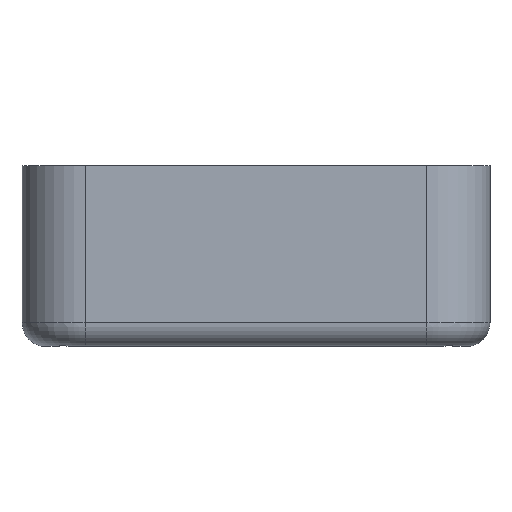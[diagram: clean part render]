
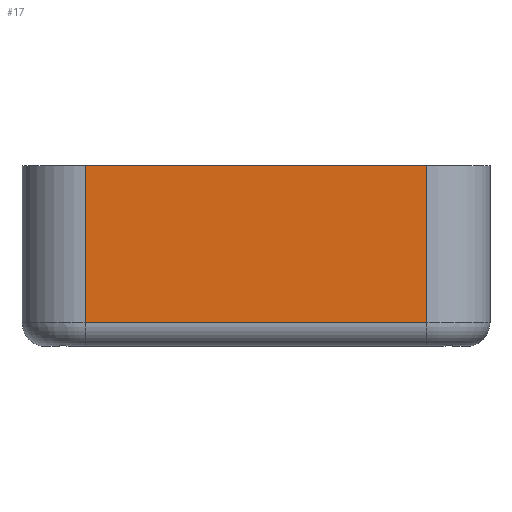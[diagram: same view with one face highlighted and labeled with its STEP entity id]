
A CAD part, left-side view. The second image highlights one B-rep face of the part: STEP entity #17.
In plain terms, the highlighted planar face has unit normal (-1, 0, 0).
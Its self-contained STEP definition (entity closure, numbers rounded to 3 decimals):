
#17 = ADVANCED_FACE('',(#18),#32,.T.);
#18 = FACE_BOUND('',#19,.T.);
#19 = EDGE_LOOP('',(#20,#55,#83,#111));
#20 = ORIENTED_EDGE('',*,*,#21,.T.);
#21 = EDGE_CURVE('',#22,#24,#26,.T.);
#22 = VERTEX_POINT('',#23);
#23 = CARTESIAN_POINT('',(-1.6,-43.61,-14.85));
#24 = VERTEX_POINT('',#25);
#25 = CARTESIAN_POINT('',(-1.6,-43.61,-4.895));
#26 = SURFACE_CURVE('',#27,(#31,#43),.PCURVE_S1.);
#27 = LINE('',#28,#29);
#28 = CARTESIAN_POINT('',(-1.6,-43.61,-16.35));
#29 = VECTOR('',#30,1.);
#30 = DIRECTION('',(0.,0.,1.));
#31 = PCURVE('',#32,#37);
#32 = PLANE('',#33);
#33 = AXIS2_PLACEMENT_3D('',#34,#35,#36);
#34 = CARTESIAN_POINT('',(-1.6,-43.61,-16.35));
#35 = DIRECTION('',(-1.,0.,0.));
#36 = DIRECTION('',(0.,1.,0.));
#37 = DEFINITIONAL_REPRESENTATION('',(#38),#42);
#38 = LINE('',#39,#40);
#39 = CARTESIAN_POINT('',(0.,0.));
#40 = VECTOR('',#41,1.);
#41 = DIRECTION('',(0.,-1.));
#42 = ( GEOMETRIC_REPRESENTATION_CONTEXT(2) 
PARAMETRIC_REPRESENTATION_CONTEXT() REPRESENTATION_CONTEXT('2D SPACE',''
  ) );
#43 = PCURVE('',#44,#49);
#44 = CYLINDRICAL_SURFACE('',#45,4.);
#45 = AXIS2_PLACEMENT_3D('',#46,#47,#48);
#46 = CARTESIAN_POINT('',(2.4,-43.61,-16.35));
#47 = DIRECTION('',(-0.,-0.,-1.));
#48 = DIRECTION('',(1.,0.,0.));
#49 = DEFINITIONAL_REPRESENTATION('',(#50),#54);
#50 = LINE('',#51,#52);
#51 = CARTESIAN_POINT('',(-3.142,0.));
#52 = VECTOR('',#53,1.);
#53 = DIRECTION('',(-0.,-1.));
#54 = ( GEOMETRIC_REPRESENTATION_CONTEXT(2) 
PARAMETRIC_REPRESENTATION_CONTEXT() REPRESENTATION_CONTEXT('2D SPACE',''
  ) );
#55 = ORIENTED_EDGE('',*,*,#56,.T.);
#56 = EDGE_CURVE('',#24,#57,#59,.T.);
#57 = VERTEX_POINT('',#58);
#58 = CARTESIAN_POINT('',(-1.6,-21.967,-4.895));
#59 = SURFACE_CURVE('',#60,(#64,#71),.PCURVE_S1.);
#60 = LINE('',#61,#62);
#61 = CARTESIAN_POINT('',(-1.6,-32.788,-4.895));
#62 = VECTOR('',#63,1.);
#63 = DIRECTION('',(0.,1.,0.));
#64 = PCURVE('',#32,#65);
#65 = DEFINITIONAL_REPRESENTATION('',(#66),#70);
#66 = LINE('',#67,#68);
#67 = CARTESIAN_POINT('',(10.822,-11.455));
#68 = VECTOR('',#69,1.);
#69 = DIRECTION('',(1.,0.));
#70 = ( GEOMETRIC_REPRESENTATION_CONTEXT(2) 
PARAMETRIC_REPRESENTATION_CONTEXT() REPRESENTATION_CONTEXT('2D SPACE',''
  ) );
#71 = PCURVE('',#72,#77);
#72 = PLANE('',#73);
#73 = AXIS2_PLACEMENT_3D('',#74,#75,#76);
#74 = CARTESIAN_POINT('',(24.,-32.788,-4.895));
#75 = DIRECTION('',(0.,0.,1.));
#76 = DIRECTION('',(1.,0.,0.));
#77 = DEFINITIONAL_REPRESENTATION('',(#78),#82);
#78 = LINE('',#79,#80);
#79 = CARTESIAN_POINT('',(-25.6,0.));
#80 = VECTOR('',#81,1.);
#81 = DIRECTION('',(0.,1.));
#82 = ( GEOMETRIC_REPRESENTATION_CONTEXT(2) 
PARAMETRIC_REPRESENTATION_CONTEXT() REPRESENTATION_CONTEXT('2D SPACE',''
  ) );
#83 = ORIENTED_EDGE('',*,*,#84,.F.);
#84 = EDGE_CURVE('',#85,#57,#87,.T.);
#85 = VERTEX_POINT('',#86);
#86 = CARTESIAN_POINT('',(-1.6,-21.967,-14.85));
#87 = SURFACE_CURVE('',#88,(#92,#99),.PCURVE_S1.);
#88 = LINE('',#89,#90);
#89 = CARTESIAN_POINT('',(-1.6,-21.967,-16.35));
#90 = VECTOR('',#91,1.);
#91 = DIRECTION('',(0.,0.,1.));
#92 = PCURVE('',#32,#93);
#93 = DEFINITIONAL_REPRESENTATION('',(#94),#98);
#94 = LINE('',#95,#96);
#95 = CARTESIAN_POINT('',(21.643,0.));
#96 = VECTOR('',#97,1.);
#97 = DIRECTION('',(0.,-1.));
#98 = ( GEOMETRIC_REPRESENTATION_CONTEXT(2) 
PARAMETRIC_REPRESENTATION_CONTEXT() REPRESENTATION_CONTEXT('2D SPACE',''
  ) );
#99 = PCURVE('',#100,#105);
#100 = CYLINDRICAL_SURFACE('',#101,4.);
#101 = AXIS2_PLACEMENT_3D('',#102,#103,#104);
#102 = CARTESIAN_POINT('',(2.4,-21.967,-16.35));
#103 = DIRECTION('',(-0.,-0.,-1.));
#104 = DIRECTION('',(1.,0.,0.));
#105 = DEFINITIONAL_REPRESENTATION('',(#106),#110);
#106 = LINE('',#107,#108);
#107 = CARTESIAN_POINT('',(-3.142,0.));
#108 = VECTOR('',#109,1.);
#109 = DIRECTION('',(-0.,-1.));
#110 = ( GEOMETRIC_REPRESENTATION_CONTEXT(2) 
PARAMETRIC_REPRESENTATION_CONTEXT() REPRESENTATION_CONTEXT('2D SPACE',''
  ) );
#111 = ORIENTED_EDGE('',*,*,#112,.F.);
#112 = EDGE_CURVE('',#22,#85,#113,.T.);
#113 = SURFACE_CURVE('',#114,(#118,#125),.PCURVE_S1.);
#114 = LINE('',#115,#116);
#115 = CARTESIAN_POINT('',(-1.6,-43.61,-14.85));
#116 = VECTOR('',#117,1.);
#117 = DIRECTION('',(0.,1.,0.));
#118 = PCURVE('',#32,#119);
#119 = DEFINITIONAL_REPRESENTATION('',(#120),#124);
#120 = LINE('',#121,#122);
#121 = CARTESIAN_POINT('',(0.,-1.5));
#122 = VECTOR('',#123,1.);
#123 = DIRECTION('',(1.,0.));
#124 = ( GEOMETRIC_REPRESENTATION_CONTEXT(2) 
PARAMETRIC_REPRESENTATION_CONTEXT() REPRESENTATION_CONTEXT('2D SPACE',''
  ) );
#125 = PCURVE('',#126,#131);
#126 = CYLINDRICAL_SURFACE('',#127,1.5);
#127 = AXIS2_PLACEMENT_3D('',#128,#129,#130);
#128 = CARTESIAN_POINT('',(-0.1,-43.61,-14.85));
#129 = DIRECTION('',(0.,1.,0.));
#130 = DIRECTION('',(-1.,0.,0.));
#131 = DEFINITIONAL_REPRESENTATION('',(#132),#136);
#132 = LINE('',#133,#134);
#133 = CARTESIAN_POINT('',(-0.,0.));
#134 = VECTOR('',#135,1.);
#135 = DIRECTION('',(-0.,1.));
#136 = ( GEOMETRIC_REPRESENTATION_CONTEXT(2) 
PARAMETRIC_REPRESENTATION_CONTEXT() REPRESENTATION_CONTEXT('2D SPACE',''
  ) );
